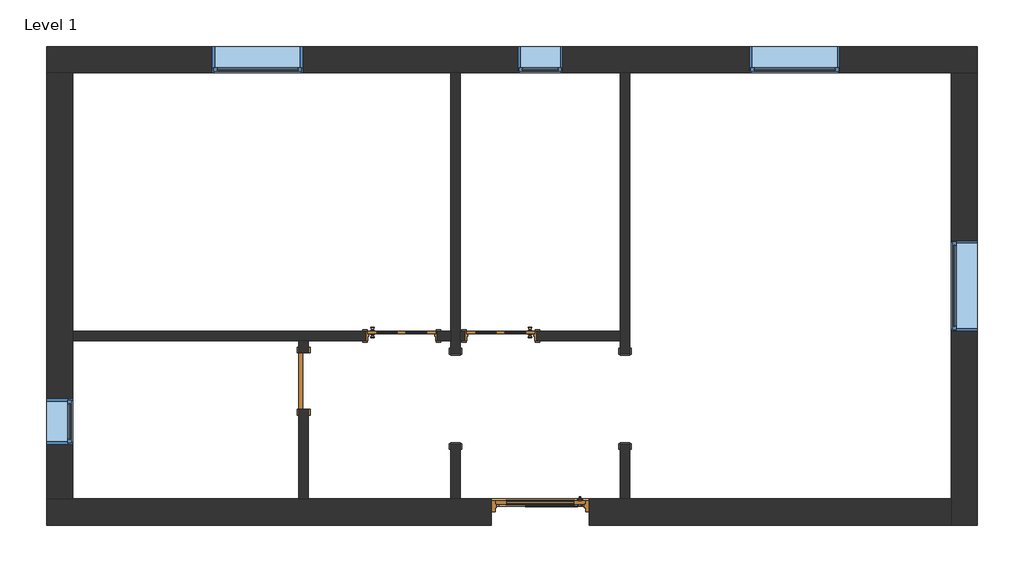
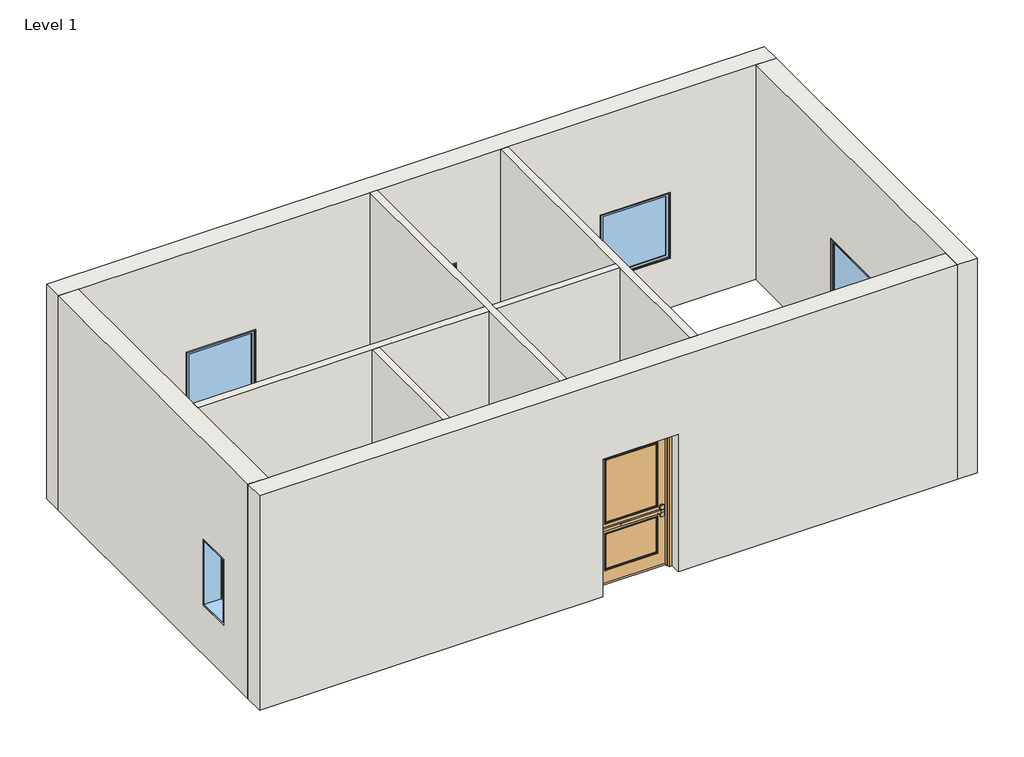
# One storey: 8 walls, 5 windows, 4 doors, 2 proxies.
"""IFC4 building model written with IfcOpenShell, lengths in millimetres."""

from ifc_helpers import new_model, si_unit, frame, origin, place, context, project, spatial, polyline, outline, extrude, faceted_brep, transform, mapped, element, save
from components import proxy_f44482cc, proxy_d58c73d0, door_734823c0, door_3a280f7b, door_48307b55, door_4d6c7550, window_60baf983, window_6eb97611

model = new_model("IFC4")

# Units and contexts
model_context = context("Model", 3, world=origin())
ifc_project = project(units=[si_unit("LENGTHUNIT", "METRE", prefix="MILLI")], contexts=[model_context])

# Site, building, storey
site = spatial("IfcSite", under=ifc_project)
building = spatial("IfcBuilding", under=site)
storey = spatial("IfcBuildingStorey", under=building, Name="Level 1", Elevation=-914.4)

# Proxies
placement = place(None, origin())
proxy_shape = proxy_f44482cc(model_context)
element("IfcBuildingElementProxy", 1, Name="Passage Opening-Cased : 48\" x 84\"", ObjectType="Passage Opening-Cased : 48\" x 84\"", at=placement, inside=storey, context=model_context, shape_type="MappedRepresentation", body=[
    mapped(proxy_shape, transform((-8577.1844712, 3224.0452741, -914.4), x_axis=(0.0, 1.0, 0.0), y_axis=(-1.0, 0.0, 0.0), z_axis=(0.0, 0.0, 1.0))),
])
proxy_2_shape = proxy_d58c73d0(model_context)
element("IfcBuildingElementProxy", 2, Name="Passage Opening-Cased : 48\" x 84\"", ObjectType="Passage Opening-Cased : 48\" x 84\"", at=placement, inside=storey, context=model_context, shape_type="MappedRepresentation", body=[
    mapped(proxy_2_shape, transform((-10863.1844712, 3224.0452741, -914.4), x_axis=(0.0, 1.0, 0.0), y_axis=(-1.0, 0.0, 0.0), z_axis=(0.0, 0.0, 1.0))),
])

# Doors
door_shape = door_734823c0(model_context)
element("IfcDoor", 3, ObjectType="Door-Exterior-Single-Two_Lite : 48\" x 96\"", at=placement, inside=storey, context=model_context, shape_type="MappedRepresentation", body=[
    mapped(door_shape, transform((-9720.1844712, 1685.5066174, -914.4), x_axis=(-1.0, 0.0, 0.0), y_axis=(0.0, -1.0, 0.0), z_axis=(0.0, 0.0, 1.0))),
])
door_2_shape = door_3a280f7b(model_context)
element("IfcDoor", 4, ObjectType="Door-Interior-Single-4_Panel-Wood : 36\" x 84\"", at=placement, inside=storey, context=model_context, shape_type="MappedRepresentation", body=[
    mapped(door_2_shape, transform((-10253.5844712, 4068.3441174, -914.4), x_axis=(-1.0, 0.0, 0.0), y_axis=(0.0, -1.0, 0.0), z_axis=(0.0, 0.0, 1.0))),
])
door_3_shape = door_48307b55(model_context)
element("IfcDoor", 5, ObjectType="Door-Interior-Single-4_Panel-Wood : 36\" x 84\"", at=placement, inside=storey, context=model_context, shape_type="MappedRepresentation", body=[
    mapped(door_3_shape, transform((-11588.6719712, 4068.3441174, -914.4), x_axis=(1.0, 0.0, 0.0), y_axis=(0.0, 1.0, 0.0), z_axis=(0.0, 0.0, 1.0))),
])
door_4_shape = door_4d6c7550(model_context)
element("IfcDoor", 6, ObjectType="Single-Flush : 30\" x 84\"", at=placement, inside=storey, context=model_context, shape_type="MappedRepresentation", body=[
    mapped(door_4_shape, transform((-12909.4719712, 3455.5691174, -914.4), x_axis=(0.0, 1.0, 0.0), y_axis=(-1.0, 0.0, 0.0), z_axis=(0.0, 0.0, 1.0))),
])

# Walls
element("IfcWall", 7, ObjectType="Exterior - Brick on Mtl. Stud", at=placement, inside=storey, context=model_context, shape_type="Brep", body=[
    faceted_brep([(-16373.3969712, 7611.6441174, -914.4), (-16020.9719712, 7611.6441174, -914.4), (-10926.6844712, 7611.6441174, -914.4), (-10799.6844712, 7611.6441174, -914.4), (-8640.6844712, 7611.6441174, -914.4), (-8513.6844712, 7611.6441174, -914.4), (-4181.3969712, 7611.6441174, -914.4), (-3828.9719712, 7611.6441174, -914.4), (-3828.9719712, 7611.6441174, 3048.0), (-4181.3969712, 7611.6441174, 3048.0), (-8513.6844712, 7611.6441174, 3048.0), (-8640.6844712, 7611.6441174, 3048.0), (-10799.6844712, 7611.6441174, 3048.0), (-10926.6844712, 7611.6441174, 3048.0), (-16020.9719712, 7611.6441174, 3048.0), (-16373.3969712, 7611.6441174, 3048.0), (-10024.9844712, 7611.6441174, 1219.2), (-9415.3844712, 7611.6441174, 1219.2), (-9415.3844712, 7611.6441174, 0.0), (-10024.9844712, 7611.6441174, 0.0), (-14139.7844712, 7611.6441174, 1219.2), (-12920.5844712, 7611.6441174, 1219.2), (-12920.5844712, 7611.6441174, 0.0), (-14139.7844712, 7611.6441174, 0.0), (-6900.7844712, 7611.6441174, 1219.2), (-5681.5844712, 7611.6441174, 1219.2), (-5681.5844712, 7611.6441174, 0.0), (-6900.7844712, 7611.6441174, 0.0), (-16373.3969712, 7964.0691174, -914.4), (-16373.3969712, 7964.0691174, 3048.0), (-3828.9719712, 7964.0691174, 3048.0), (-3828.9719712, 7964.0691174, -914.4), (-10024.9844712, 7964.0691174, 1219.2), (-10024.9844712, 7964.0691174, 0.0), (-9415.3844712, 7964.0691174, 0.0), (-9415.3844712, 7964.0691174, 1219.2), (-14139.7844712, 7964.0691174, 1219.2), (-14139.7844712, 7964.0691174, 0.0), (-12920.5844712, 7964.0691174, 0.0), (-12920.5844712, 7964.0691174, 1219.2), (-6900.7844712, 7964.0691174, 1219.2), (-6900.7844712, 7964.0691174, 0.0), (-5681.5844712, 7964.0691174, 0.0), (-5681.5844712, 7964.0691174, 1219.2)], [[[0, 1, 2, 3, 4, 5, 6, 7, 8, 9, 10, 11, 12, 13, 14, 15], [16, 17, 18, 19], [20, 21, 22, 23], [24, 25, 26, 27]], [[28, 29, 30, 31], [32, 33, 34, 35], [36, 37, 38, 39], [40, 41, 42, 43]], [[7, 6, 5, 4, 3, 2, 1, 0, 28, 31]], [[15, 14, 13, 12, 11, 10, 9, 8, 30, 29]], [[8, 7, 31, 30]], [[0, 15, 29, 28]], [[33, 32, 16, 19]], [[34, 33, 19, 18]], [[35, 34, 18, 17]], [[32, 35, 17, 16]], [[37, 36, 20, 23]], [[38, 37, 23, 22]], [[39, 38, 22, 21]], [[36, 39, 21, 20]], [[41, 40, 24, 27]], [[42, 41, 27, 26]], [[43, 42, 26, 25]], [[40, 43, 25, 24]]]),
])
element("IfcWall", 8, ObjectType="Exterior - Brick on Mtl. Stud", at=placement, inside=storey, context=model_context, shape_type="Brep", body=[
    faceted_brep([(-4181.3969712, 7611.6441174, -914.4), (-4181.3969712, 1868.0691174, -914.4), (-4181.3969712, 1515.6441174, -914.4), (-4181.3969712, 1515.6441174, 3048.0), (-4181.3969712, 1868.0691174, 3048.0), (-4181.3969712, 7611.6441174, 3048.0), (-4181.3969712, 5349.4566174, 1219.2), (-4181.3969712, 4130.2566174, 1219.2), (-4181.3969712, 4130.2566174, 0.0), (-4181.3969712, 5349.4566174, 0.0), (-3828.9719712, 7611.6441174, -914.4), (-3828.9719712, 7611.6441174, 3048.0), (-3828.9719712, 1515.6441174, 3048.0), (-3828.9719712, 1515.6441174, -914.4), (-3828.9719712, 5349.4566174, 1219.2), (-3828.9719712, 5349.4566174, 0.0), (-3828.9719712, 4130.2566174, 0.0), (-3828.9719712, 4130.2566174, 1219.2)], [[[0, 1, 2, 3, 4, 5], [6, 7, 8, 9]], [[10, 11, 12, 13], [14, 15, 16, 17]], [[2, 1, 0, 10, 13]], [[5, 4, 3, 12, 11]], [[0, 5, 11, 10]], [[3, 2, 13, 12]], [[15, 14, 6, 9]], [[16, 15, 9, 8]], [[17, 16, 8, 7]], [[14, 17, 7, 6]]]),
])
element("IfcWall", 9, ObjectType="Exterior - Brick on Mtl. Stud", at=placement, inside=storey, context=model_context, shape_type="Brep", body=[
    faceted_brep([(-16373.3969712, 1868.0691174, 3048.0), (-16020.9719712, 1868.0691174, 3048.0), (-12972.9719712, 1868.0691174, 3048.0), (-12845.9719712, 1868.0691174, 3048.0), (-10926.6844712, 1868.0691174, 3048.0), (-10799.6844712, 1868.0691174, 3048.0), (-8640.6844712, 1868.0691174, 3048.0), (-8513.6844712, 1868.0691174, 3048.0), (-4181.3969712, 1868.0691174, 3048.0), (-4181.3969712, 1868.0691174, -914.4), (-8513.6844712, 1868.0691174, -914.4), (-8640.6844712, 1868.0691174, -914.4), (-9059.7844712, 1868.0691174, -914.4), (-9059.7844712, 1868.0691174, 1625.6), (-10380.5844712, 1868.0691174, 1625.6), (-10380.5844712, 1868.0691174, -914.4), (-10799.6844712, 1868.0691174, -914.4), (-10926.6844712, 1868.0691174, -914.4), (-12845.9719712, 1868.0691174, -914.4), (-12972.9719712, 1868.0691174, -914.4), (-16020.9719712, 1868.0691174, -914.4), (-16373.3969712, 1868.0691174, -914.4), (-4181.3969712, 1515.6441174, 3048.0), (-16373.3969712, 1515.6441174, 3048.0), (-16373.3969712, 1515.6441174, -914.4), (-10380.5844712, 1515.6441174, -914.4), (-10380.5844712, 1515.6441174, 1625.6), (-9059.7844712, 1515.6441174, 1625.6), (-9059.7844712, 1515.6441174, -914.4), (-4181.3969712, 1515.6441174, -914.4)], [[[0, 1, 2, 3, 4, 5, 6, 7, 8, 9, 10, 11, 12, 13, 14, 15, 16, 17, 18, 19, 20, 21]], [[22, 23, 24, 25, 26, 27, 28, 29]], [[9, 29, 28, 12, 11, 10]], [[24, 21, 20, 19, 18, 17, 16, 15, 25]], [[8, 7, 6, 5, 4, 3, 2, 1, 0, 23, 22]], [[9, 8, 22, 29]], [[0, 21, 24, 23]], [[14, 26, 25, 15]], [[26, 14, 13, 27]], [[27, 13, 12, 28]]]),
])
element("IfcWall", 10, ObjectType="Exterior - Brick on Mtl. Stud", at=placement, inside=storey, context=model_context, shape_type="Brep", body=[
    faceted_brep([(-16020.9719712, 1868.0691174, -914.4), (-16020.9719712, 4001.6691174, -914.4), (-16020.9719712, 4128.6691174, -914.4), (-16020.9719712, 7611.6441174, -914.4), (-16020.9719712, 7611.6441174, 3048.0), (-16020.9719712, 4128.6691174, 3048.0), (-16020.9719712, 4001.6691174, 3048.0), (-16020.9719712, 1868.0691174, 3048.0), (-16020.9719712, 2606.2566174, 1219.2), (-16020.9719712, 3215.8566174, 1219.2), (-16020.9719712, 3215.8566174, 0.0), (-16020.9719712, 2606.2566174, 0.0), (-16373.3969712, 1868.0691174, -914.4), (-16373.3969712, 1868.0691174, 3048.0), (-16373.3969712, 7611.6441174, 3048.0), (-16373.3969712, 7611.6441174, -914.4), (-16373.3969712, 2606.2566174, 1219.2), (-16373.3969712, 2606.2566174, 0.0), (-16373.3969712, 3215.8566174, 0.0), (-16373.3969712, 3215.8566174, 1219.2)], [[[0, 1, 2, 3, 4, 5, 6, 7], [8, 9, 10, 11]], [[12, 13, 14, 15], [16, 17, 18, 19]], [[3, 2, 1, 0, 12, 15]], [[7, 6, 5, 4, 14, 13]], [[0, 7, 13, 12]], [[4, 3, 15, 14]], [[17, 16, 8, 11]], [[18, 17, 11, 10]], [[19, 18, 10, 9]], [[16, 19, 9, 8]]]),
])
element("IfcWall", 11, ObjectType="Interior - 5\" Partition (2-hr)", at=placement, inside=storey, context=model_context, shape_type="Brep", body=[
    faceted_brep([(-8640.6844712, 7611.6441174, -914.4), (-8640.6844712, 4128.6691174, -914.4), (-8640.6844712, 4001.6691174, -914.4), (-8640.6844712, 3825.4566174, -914.4), (-8640.6844712, 3825.4566174, 1219.2), (-8640.6844712, 2606.2566174, 1219.2), (-8640.6844712, 2606.2566174, -914.4), (-8640.6844712, 1868.0691174, -914.4), (-8640.6844712, 1868.0691174, 3048.0), (-8640.6844712, 4001.6691174, 3048.0), (-8640.6844712, 4128.6691174, 3048.0), (-8640.6844712, 7611.6441174, 3048.0), (-8513.6844712, 3825.4566174, 1219.2), (-8513.6844712, 3825.4566174, -914.4), (-8513.6844712, 7611.6441174, -914.4), (-8513.6844712, 7611.6441174, 3048.0), (-8513.6844712, 1868.0691174, 3048.0), (-8513.6844712, 1868.0691174, -914.4), (-8513.6844712, 2606.2566174, -914.4), (-8513.6844712, 2606.2566174, 1219.2)], [[[0, 1, 2, 3, 4, 5, 6, 7, 8, 9, 10, 11]], [[12, 13, 14, 15, 16, 17, 18, 19]], [[18, 17, 7, 6]], [[14, 13, 3, 2, 1, 0]], [[11, 10, 9, 8, 16, 15]], [[0, 11, 15, 14]], [[8, 7, 17, 16]], [[6, 5, 19, 18]], [[4, 3, 13, 12]], [[5, 4, 12, 19]]]),
])
element("IfcWall", 12, ObjectType="Interior - 5\" Partition (2-hr)", at=placement, inside=storey, context=model_context, shape_type="Brep", body=[
    faceted_brep([(-10926.6844712, 7611.6441174, -914.4), (-10926.6844712, 4128.6691174, -914.4), (-10926.6844712, 4001.6691174, -914.4), (-10926.6844712, 3825.4566174, -914.4), (-10926.6844712, 3825.4566174, 1219.2), (-10926.6844712, 2606.2566174, 1219.2), (-10926.6844712, 2606.2566174, -914.4), (-10926.6844712, 1868.0691174, -914.4), (-10926.6844712, 1868.0691174, 3048.0), (-10926.6844712, 4001.6691174, 3048.0), (-10926.6844712, 4128.6691174, 3048.0), (-10926.6844712, 7611.6441174, 3048.0), (-10799.6844712, 3825.4566174, 1219.2), (-10799.6844712, 3825.4566174, -914.4), (-10799.6844712, 4001.6691174, -914.4), (-10799.6844712, 4128.6691174, -914.4), (-10799.6844712, 7611.6441174, -914.4), (-10799.6844712, 7611.6441174, 3048.0), (-10799.6844712, 4128.6691174, 3048.0), (-10799.6844712, 4001.6691174, 3048.0), (-10799.6844712, 1868.0691174, 3048.0), (-10799.6844712, 1868.0691174, -914.4), (-10799.6844712, 2606.2566174, -914.4), (-10799.6844712, 2606.2566174, 1219.2)], [[[0, 1, 2, 3, 4, 5, 6, 7, 8, 9, 10, 11]], [[12, 13, 14, 15, 16, 17, 18, 19, 20, 21, 22, 23]], [[22, 21, 7, 6]], [[16, 15, 14, 13, 3, 2, 1, 0]], [[11, 10, 9, 8, 20, 19, 18, 17]], [[0, 11, 17, 16]], [[8, 7, 21, 20]], [[6, 5, 23, 22]], [[4, 3, 13, 12]], [[5, 4, 12, 23]]]),
])
element("IfcWall", 13, ObjectType="Interior - 5\" Partition (2-hr)", at=placement, inside=storey, context=model_context, shape_type="Brep", body=[
    faceted_brep([(-16020.9719712, 4001.6691174, 3048.0), (-16020.9719712, 4001.6691174, -914.4), (-12972.9719712, 4001.6691174, -914.4), (-12845.9719712, 4001.6691174, -914.4), (-12071.2719712, 4001.6691174, -914.4), (-12071.2719712, 4001.6691174, 1244.6), (-11106.0719712, 4001.6691174, 1244.6), (-11106.0719712, 4001.6691174, -914.4), (-10926.6844712, 4001.6691174, -914.4), (-10926.6844712, 4001.6691174, 3048.0), (-12845.9719712, 4001.6691174, 3048.0), (-12972.9719712, 4001.6691174, 3048.0), (-16020.9719712, 4128.6691174, -914.4), (-16020.9719712, 4128.6691174, 3048.0), (-10926.6844712, 4128.6691174, 3048.0), (-10926.6844712, 4128.6691174, -914.4), (-11106.0719712, 4128.6691174, -914.4), (-11106.0719712, 4128.6691174, 1244.6), (-12071.2719712, 4128.6691174, 1244.6), (-12071.2719712, 4128.6691174, -914.4)], [[[0, 1, 2, 3, 4, 5, 6, 7, 8, 9, 10, 11]], [[12, 13, 14, 15, 16, 17, 18, 19]], [[1, 12, 19, 4, 3, 2]], [[7, 16, 15, 8]], [[13, 0, 11, 10, 9, 14]], [[1, 0, 13, 12]], [[9, 8, 15, 14]], [[6, 17, 16, 7]], [[17, 6, 5, 18]], [[18, 5, 4, 19]]]),
    faceted_brep([(-8640.6844712, 4001.6691174, -914.4), (-8640.6844712, 4001.6691174, 3048.0), (-10799.6844712, 4001.6691174, 3048.0), (-10799.6844712, 4001.6691174, -914.4), (-10736.1844712, 4001.6691174, -914.4), (-10736.1844712, 4001.6691174, 1244.6), (-9770.9844712, 4001.6691174, 1244.6), (-9770.9844712, 4001.6691174, -914.4), (-8640.6844712, 4128.6691174, 3048.0), (-8640.6844712, 4128.6691174, -914.4), (-9770.9844712, 4128.6691174, -914.4), (-9770.9844712, 4128.6691174, 1244.6), (-10736.1844712, 4128.6691174, 1244.6), (-10736.1844712, 4128.6691174, -914.4), (-10799.6844712, 4128.6691174, -914.4), (-10799.6844712, 4128.6691174, 3048.0)], [[[0, 1, 2, 3, 4, 5, 6, 7]], [[8, 9, 10, 11, 12, 13, 14, 15]], [[9, 0, 7, 10]], [[13, 4, 3, 14]], [[1, 8, 15, 2]], [[1, 0, 9, 8]], [[3, 2, 15, 14]], [[5, 4, 13, 12]], [[6, 5, 12, 11]], [[7, 6, 11, 10]]]),
])
element("IfcWall", 14, ObjectType="Interior - 5\" Partition (2-hr)", at=placement, inside=storey, context=model_context, shape_type="SweptSolid", body=[
    extrude(outline(polyline([(4001.6691174, -914.4), (3836.5691174, -914.4), (3836.5691174, 1219.2), (3074.5691174, 1219.2), (3074.5691174, -914.4), (1868.0691174, -914.4), (1868.0691174, 3048.0), (4001.6691174, 3048.0), (4001.6691174, -914.4)])), frame((-12972.9719712, 0.0, 0.0), z_axis=(1.0, 0.0, 0.0), x_axis=(0.0, 1.0, 0.0)), (0.0, 0.0, 1.0), 127.0),
])

# Windows
window_shape = window_60baf983(model_context)
element("IfcWindow", 15, ObjectType="Fixed : 24\" x 48\"", at=placement, inside=storey, context=model_context, shape_type="MappedRepresentation", body=[
    mapped(window_shape, transform((-9758.2844712, 7787.8566174, -914.4), x_axis=(-1.0, 0.0, 0.0), y_axis=(0.0, -1.0, 0.0), z_axis=(0.0, 0.0, 1.0))),
])
element("IfcWindow", 16, ObjectType="Fixed : 24\" x 48\"", at=placement, inside=storey, context=model_context, shape_type="MappedRepresentation", body=[
    mapped(window_shape, transform((-16197.1844712, 2872.9566174, -914.4), x_axis=(0.0, -1.0, 0.0), y_axis=(1.0, 0.0, 0.0), z_axis=(0.0, 0.0, 1.0))),
])
window_2_shape = window_6eb97611(model_context)
element("IfcWindow", 17, ObjectType="Fixed : 48\" x 48\"", at=placement, inside=storey, context=model_context, shape_type="MappedRepresentation", body=[
    mapped(window_2_shape, transform((-13568.2844712, 7787.8566174, -914.4), x_axis=(-1.0, 0.0, 0.0), y_axis=(0.0, -1.0, 0.0), z_axis=(0.0, 0.0, 1.0))),
])
element("IfcWindow", 18, ObjectType="Fixed : 48\" x 48\"", at=placement, inside=storey, context=model_context, shape_type="MappedRepresentation", body=[
    mapped(window_2_shape, transform((-6329.2844712, 7787.8566174, -914.4), x_axis=(-1.0, 0.0, 0.0), y_axis=(0.0, -1.0, 0.0), z_axis=(0.0, 0.0, 1.0))),
])
element("IfcWindow", 19, ObjectType="Fixed : 48\" x 48\"", at=placement, inside=storey, context=model_context, shape_type="MappedRepresentation", body=[
    mapped(window_2_shape, transform((-4005.1844712, 4777.9566174, -914.4), x_axis=(0.0, 1.0, 0.0), y_axis=(-1.0, 0.0, 0.0), z_axis=(0.0, 0.0, 1.0))),
])

save(model, "model.ifc")
